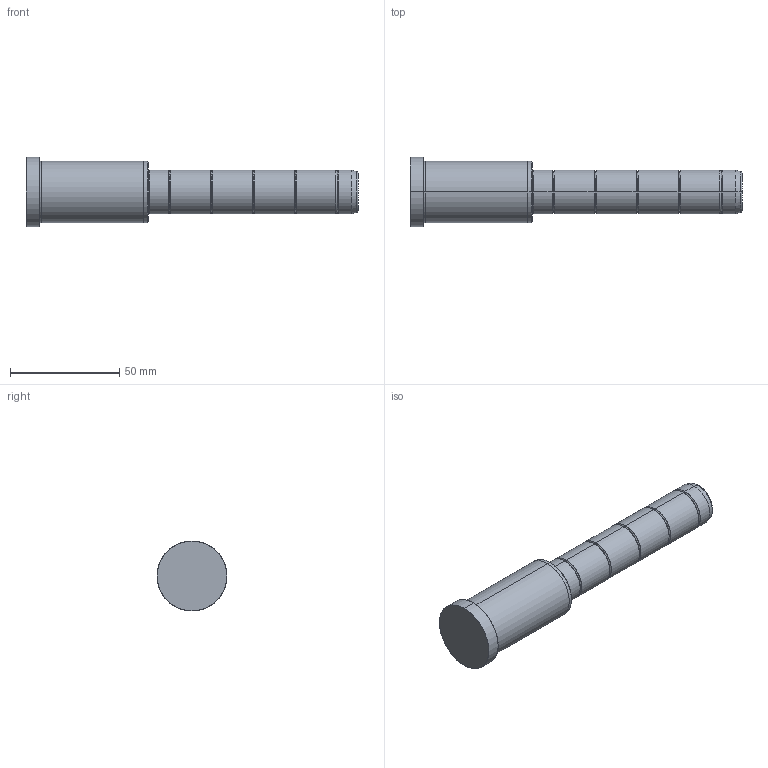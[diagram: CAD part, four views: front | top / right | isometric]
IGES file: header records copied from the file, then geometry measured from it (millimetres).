
Start section: SolidWorks IGES file using analytic representation for surfaces
Global section: file name: C:\Documents and Settings\kalite-mail\Desktop\IGS\D02\20\D02 - 20x56x96.IGS; native system: SolidWorks 2008; preprocessor: SolidWorks 2008; author: kalite-mail; date: 080616.163027; units: millimetre
Bounding box: 152 x 32 x 32 mm (x, y, z)
Surface area: 12707.6 mm2 (no closed solid volume)
Topology: 0 solids, 0 shells, 54 faces, 736 edges, 736 vertices
Faces by surface type: bspline 30, revolution 24
